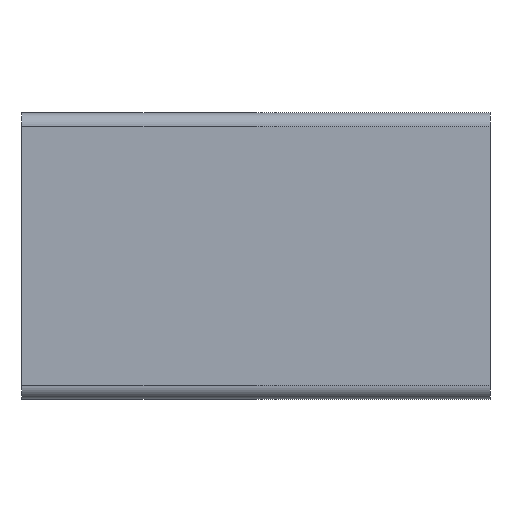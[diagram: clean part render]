
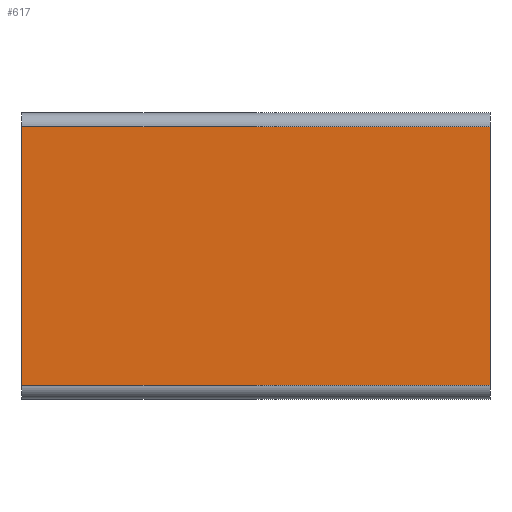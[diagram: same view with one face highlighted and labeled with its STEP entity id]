
A CAD part, front view. The second image highlights one B-rep face of the part: STEP entity #617.
In plain terms, the highlighted planar face has unit normal (0, -1, 0).
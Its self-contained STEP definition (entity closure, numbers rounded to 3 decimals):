
#559=CARTESIAN_POINT('',(100.0,-78.6,3.0));
#560=VERTEX_POINT('',#559);
#568=CARTESIAN_POINT('',(0.0,-78.6,3.0));
#569=VERTEX_POINT('',#568);
#570=CARTESIAN_POINT('',(0.0,-78.6,3.0));
#571=DIRECTION('',(1.0,0.0,0.0));
#572=VECTOR('',#571,100.0);
#573=LINE('',#570,#572);
#574=EDGE_CURVE('',#569,#560,#573,.T.);
#587=CARTESIAN_POINT('',(0.0,-78.6,3.0));
#588=DIRECTION('',(0.0,-1.0,0.0));
#589=DIRECTION('',(0.0,0.0,-1.0));
#590=AXIS2_PLACEMENT_3D('',#587,#588,#589);
#591=PLANE('',#590);
#592=CARTESIAN_POINT('',(100.0,-78.6,58.2));
#593=VERTEX_POINT('',#592);
#594=CARTESIAN_POINT('',(100.0,-78.6,3.0));
#595=DIRECTION('',(0.0,0.0,1.0));
#596=VECTOR('',#595,55.2);
#597=LINE('',#594,#596);
#598=EDGE_CURVE('',#560,#593,#597,.T.);
#599=ORIENTED_EDGE('',*,*,#598,.T.);
#600=CARTESIAN_POINT('',(0.0,-78.6,58.2));
#601=VERTEX_POINT('',#600);
#602=CARTESIAN_POINT('',(0.0,-78.6,58.2));
#603=DIRECTION('',(1.0,0.0,0.0));
#604=VECTOR('',#603,100.0);
#605=LINE('',#602,#604);
#606=EDGE_CURVE('',#601,#593,#605,.T.);
#607=ORIENTED_EDGE('',*,*,#606,.F.);
#608=CARTESIAN_POINT('',(0.0,-78.6,58.2));
#609=DIRECTION('',(0.0,0.0,-1.0));
#610=VECTOR('',#609,55.2);
#611=LINE('',#608,#610);
#612=EDGE_CURVE('',#601,#569,#611,.T.);
#613=ORIENTED_EDGE('',*,*,#612,.T.);
#614=ORIENTED_EDGE('',*,*,#574,.T.);
#615=EDGE_LOOP('',(#599,#607,#613,#614));
#616=FACE_OUTER_BOUND('',#615,.T.);
#617=ADVANCED_FACE('',(#616),#591,.T.);
